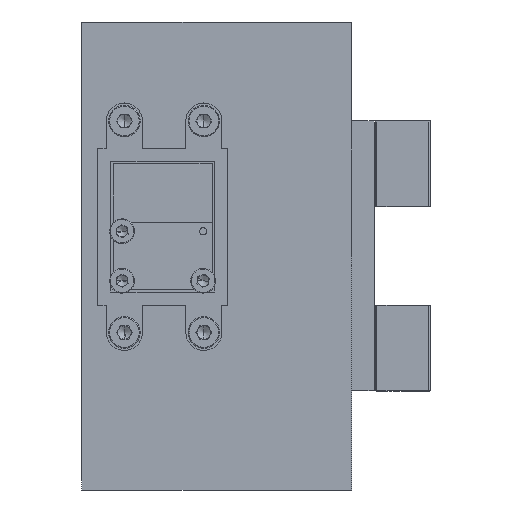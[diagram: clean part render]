
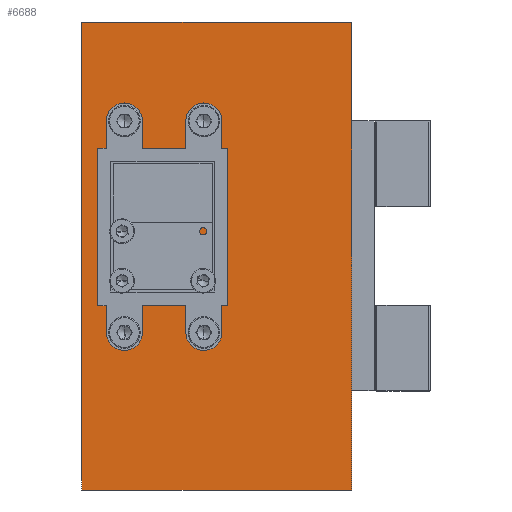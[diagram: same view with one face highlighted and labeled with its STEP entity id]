
A CAD part, left-side view. The second image highlights one B-rep face of the part: STEP entity #6688.
In plain terms, the highlighted planar face has unit normal (-1, 0, 0).
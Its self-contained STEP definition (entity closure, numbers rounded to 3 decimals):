
#190 = CARTESIAN_POINT ( 'NONE',  ( -46.258, 5.765, 33.955 ) ) ;
#287 = EDGE_CURVE ( 'NONE', #24510, #24609, #2697, .T. ) ;
#312 = LINE ( 'NONE', #35295, #22970 ) ;
#367 = CIRCLE ( 'NONE', #24216, 5.5 ) ;
#383 = CARTESIAN_POINT ( 'NONE',  ( -46.258, 14.923, 3.955 ) ) ;
#1344 = CARTESIAN_POINT ( 'NONE',  ( -46.258, 7.765, -13.045 ) ) ;
#1699 = DIRECTION ( 'NONE',  ( 0., -1., 0. ) ) ;
#2235 = CARTESIAN_POINT ( 'NONE',  ( -46.258, 5.765, -13.045 ) ) ;
#2360 = CARTESIAN_POINT ( 'NONE',  ( -46.258, 3.765, 33.955 ) ) ;
#2683 = DIRECTION ( 'NONE',  ( -1., 0., 0. ) ) ;
#2697 = CIRCLE ( 'NONE', #47421, 2. ) ;
#2920 = EDGE_CURVE ( 'NONE', #18150, #9953, #31702, .T. ) ;
#3363 = VERTEX_POINT ( 'NONE', #13300 ) ;
#3653 = CARTESIAN_POINT ( 'NONE',  ( -46.258, 23.423, 33.955 ) ) ;
#4310 = DIRECTION ( 'NONE',  ( 0., -1., 0. ) ) ;
#5610 = VECTOR ( 'NONE', #19807, 1000. ) ;
#6042 = ORIENTED_EDGE ( 'NONE', *, *, #36266, .T. ) ;
#6501 = VECTOR ( 'NONE', #38126, 1000. ) ;
#6688 = ADVANCED_FACE ( 'NONE', ( #38410, #28535, #47106, #9313, #46487, #30875 ), #43529, .F. ) ;
#7034 = VERTEX_POINT ( 'NONE', #7252 ) ;
#7222 = CARTESIAN_POINT ( 'NONE',  ( -46.258, 23.423, -13.045 ) ) ;
#7252 = CARTESIAN_POINT ( 'NONE',  ( -46.258, 21.423, 33.955 ) ) ;
#7395 = CARTESIAN_POINT ( 'NONE',  ( -46.258, 20.423, 3.955 ) ) ;
#7951 = DIRECTION ( 'NONE',  ( 0., 1., 0. ) ) ;
#8214 = CARTESIAN_POINT ( 'NONE',  ( -46.258, 5.765, 33.955 ) ) ;
#8541 = CARTESIAN_POINT ( 'NONE',  ( -46.258, 3.765, -13.045 ) ) ;
#8941 = VERTEX_POINT ( 'NONE', #39934 ) ;
#9313 = FACE_BOUND ( 'NONE', #44880, .T. ) ;
#9594 = DIRECTION ( 'NONE',  ( 0., 1., 0. ) ) ;
#9685 = AXIS2_PLACEMENT_3D ( 'NONE', #41187, #34054, #4310 ) ;
#9931 = EDGE_CURVE ( 'NONE', #25145, #8941, #19965, .T. ) ;
#9953 = VERTEX_POINT ( 'NONE', #7395 ) ;
#9974 = CARTESIAN_POINT ( 'NONE',  ( -46.258, 23.423, 33.955 ) ) ;
#10886 = ORIENTED_EDGE ( 'NONE', *, *, #2920, .F. ) ;
#11550 = DIRECTION ( 'NONE',  ( -1., 0., 0. ) ) ;
#11611 = DIRECTION ( 'NONE',  ( -1., 0., 0. ) ) ;
#11898 = DIRECTION ( 'NONE',  ( 0., 1., 0. ) ) ;
#12111 = AXIS2_PLACEMENT_3D ( 'NONE', #9974, #2683, #14047 ) ;
#13169 = VERTEX_POINT ( 'NONE', #18221 ) ;
#13300 = CARTESIAN_POINT ( 'NONE',  ( -46.258, 25.423, 33.955 ) ) ;
#14047 = DIRECTION ( 'NONE',  ( 0., -1., 0. ) ) ;
#14516 = EDGE_CURVE ( 'NONE', #44538, #26137, #26007, .T. ) ;
#15008 = DIRECTION ( 'NONE',  ( -1., 0., 0. ) ) ;
#15047 = DIRECTION ( 'NONE',  ( 0., 1., 0. ) ) ;
#15086 = ORIENTED_EDGE ( 'NONE', *, *, #287, .F. ) ;
#15104 = ORIENTED_EDGE ( 'NONE', *, *, #14516, .F. ) ;
#15666 = EDGE_LOOP ( 'NONE', ( #47657, #10886 ) ) ;
#16183 = CARTESIAN_POINT ( 'NONE',  ( -46.258, 32.923, 55.955 ) ) ;
#16364 = LINE ( 'NONE', #44270, #6501 ) ;
#16737 = VECTOR ( 'NONE', #25186, 1000. ) ;
#17086 = CIRCLE ( 'NONE', #9685, 2. ) ;
#17479 = EDGE_LOOP ( 'NONE', ( #34234, #37828 ) ) ;
#17632 = ORIENTED_EDGE ( 'NONE', *, *, #9931, .F. ) ;
#18150 = VERTEX_POINT ( 'NONE', #23530 ) ;
#18221 = CARTESIAN_POINT ( 'NONE',  ( -46.258, 32.923, -48.045 ) ) ;
#18356 = AXIS2_PLACEMENT_3D ( 'NONE', #2235, #35235, #20763 ) ;
#18815 = DIRECTION ( 'NONE',  ( -1., 0., 0. ) ) ;
#19159 = ORIENTED_EDGE ( 'NONE', *, *, #19341, .F. ) ;
#19341 = EDGE_CURVE ( 'NONE', #8941, #25145, #17086, .T. ) ;
#19343 = AXIS2_PLACEMENT_3D ( 'NONE', #39507, #31890, #9594 ) ;
#19807 = DIRECTION ( 'NONE',  ( 0., -1., 0. ) ) ;
#19949 = EDGE_LOOP ( 'NONE', ( #17632, #19159 ) ) ;
#19965 = CIRCLE ( 'NONE', #25692, 2. ) ;
#20763 = DIRECTION ( 'NONE',  ( 0., -1., 0. ) ) ;
#21314 = CARTESIAN_POINT ( 'NONE',  ( -46.258, 21.423, -13.045 ) ) ;
#22177 = DIRECTION ( 'NONE',  ( -1., 0., 0. ) ) ;
#22382 = CIRCLE ( 'NONE', #38121, 2. ) ;
#22784 = EDGE_CURVE ( 'NONE', #7034, #3363, #27006, .T. ) ;
#22970 = VECTOR ( 'NONE', #11898, 1000. ) ;
#23530 = CARTESIAN_POINT ( 'NONE',  ( -46.258, 9.423, 3.955 ) ) ;
#24216 = AXIS2_PLACEMENT_3D ( 'NONE', #30194, #18815, #7951 ) ;
#24510 = VERTEX_POINT ( 'NONE', #24799 ) ;
#24609 = VERTEX_POINT ( 'NONE', #2360 ) ;
#24799 = CARTESIAN_POINT ( 'NONE',  ( -46.258, 7.765, 33.955 ) ) ;
#24940 = VERTEX_POINT ( 'NONE', #1344 ) ;
#25145 = VERTEX_POINT ( 'NONE', #21314 ) ;
#25186 = DIRECTION ( 'NONE',  ( 0., 0., -1. ) ) ;
#25692 = AXIS2_PLACEMENT_3D ( 'NONE', #7222, #40171, #29276 ) ;
#26007 = LINE ( 'NONE', #41883, #5610 ) ;
#26137 = VERTEX_POINT ( 'NONE', #27758 ) ;
#26207 = DIRECTION ( 'NONE',  ( 0., -1., 0. ) ) ;
#27006 = CIRCLE ( 'NONE', #35424, 2. ) ;
#27758 = CARTESIAN_POINT ( 'NONE',  ( -46.258, -27.077, 55.955 ) ) ;
#28524 = EDGE_CURVE ( 'NONE', #26137, #42850, #40535, .T. ) ;
#28535 = FACE_BOUND ( 'NONE', #17479, .T. ) ;
#29276 = DIRECTION ( 'NONE',  ( 0., -1., 0. ) ) ;
#29622 = DIRECTION ( 'NONE',  ( 0., -1., 0. ) ) ;
#30194 = CARTESIAN_POINT ( 'NONE',  ( -46.258, 14.923, 3.955 ) ) ;
#30201 = CIRCLE ( 'NONE', #35210, 2. ) ;
#30853 = ORIENTED_EDGE ( 'NONE', *, *, #43218, .F. ) ;
#30866 = ORIENTED_EDGE ( 'NONE', *, *, #22784, .F. ) ;
#30875 = FACE_OUTER_BOUND ( 'NONE', #37982, .T. ) ;
#31664 = CIRCLE ( 'NONE', #12111, 2. ) ;
#31702 = CIRCLE ( 'NONE', #39767, 5.5 ) ;
#31890 = DIRECTION ( 'NONE',  ( 1., 0., 0. ) ) ;
#33401 = CARTESIAN_POINT ( 'NONE',  ( -46.258, -27.077, -48.045 ) ) ;
#33792 = CARTESIAN_POINT ( 'NONE',  ( -46.258, 5.765, -13.045 ) ) ;
#34054 = DIRECTION ( 'NONE',  ( -1., 0., 0. ) ) ;
#34165 = EDGE_CURVE ( 'NONE', #24609, #24510, #30201, .T. ) ;
#34234 = ORIENTED_EDGE ( 'NONE', *, *, #43644, .F. ) ;
#34299 = EDGE_LOOP ( 'NONE', ( #46886, #15086 ) ) ;
#34923 = DIRECTION ( 'NONE',  ( 0., -1., 0. ) ) ;
#35210 = AXIS2_PLACEMENT_3D ( 'NONE', #8214, #38882, #1699 ) ;
#35235 = DIRECTION ( 'NONE',  ( -1., 0., 0. ) ) ;
#35295 = CARTESIAN_POINT ( 'NONE',  ( -46.258, 32.923, -48.045 ) ) ;
#35424 = AXIS2_PLACEMENT_3D ( 'NONE', #3653, #22177, #29622 ) ;
#36266 = EDGE_CURVE ( 'NONE', #44538, #13169, #16364, .T. ) ;
#37320 = ORIENTED_EDGE ( 'NONE', *, *, #47858, .F. ) ;
#37828 = ORIENTED_EDGE ( 'NONE', *, *, #48214, .F. ) ;
#37982 = EDGE_LOOP ( 'NONE', ( #6042, #37320, #42907, #15104 ) ) ;
#38121 = AXIS2_PLACEMENT_3D ( 'NONE', #33792, #11550, #34923 ) ;
#38126 = DIRECTION ( 'NONE',  ( 0., 0., -1. ) ) ;
#38410 = FACE_BOUND ( 'NONE', #19949, .T. ) ;
#38882 = DIRECTION ( 'NONE',  ( -1., 0., 0. ) ) ;
#39507 = CARTESIAN_POINT ( 'NONE',  ( -46.258, 32.923, 53.955 ) ) ;
#39767 = AXIS2_PLACEMENT_3D ( 'NONE', #383, #11611, #15047 ) ;
#39934 = CARTESIAN_POINT ( 'NONE',  ( -46.258, 25.423, -13.045 ) ) ;
#40171 = DIRECTION ( 'NONE',  ( -1., 0., 0. ) ) ;
#40535 = LINE ( 'NONE', #47399, #16737 ) ;
#41187 = CARTESIAN_POINT ( 'NONE',  ( -46.258, 23.423, -13.045 ) ) ;
#41883 = CARTESIAN_POINT ( 'NONE',  ( -46.258, 32.923, 55.955 ) ) ;
#42343 = EDGE_CURVE ( 'NONE', #9953, #18150, #367, .T. ) ;
#42850 = VERTEX_POINT ( 'NONE', #33401 ) ;
#42907 = ORIENTED_EDGE ( 'NONE', *, *, #28524, .F. ) ;
#43218 = EDGE_CURVE ( 'NONE', #3363, #7034, #31664, .T. ) ;
#43529 = PLANE ( 'NONE',  #19343 ) ;
#43644 = EDGE_CURVE ( 'NONE', #44074, #24940, #43759, .T. ) ;
#43759 = CIRCLE ( 'NONE', #18356, 2. ) ;
#44074 = VERTEX_POINT ( 'NONE', #8541 ) ;
#44270 = CARTESIAN_POINT ( 'NONE',  ( -46.258, 32.923, 53.955 ) ) ;
#44538 = VERTEX_POINT ( 'NONE', #16183 ) ;
#44880 = EDGE_LOOP ( 'NONE', ( #30866, #30853 ) ) ;
#46487 = FACE_BOUND ( 'NONE', #15666, .T. ) ;
#46886 = ORIENTED_EDGE ( 'NONE', *, *, #34165, .F. ) ;
#47106 = FACE_BOUND ( 'NONE', #34299, .T. ) ;
#47399 = CARTESIAN_POINT ( 'NONE',  ( -46.258, -27.077, 53.955 ) ) ;
#47421 = AXIS2_PLACEMENT_3D ( 'NONE', #190, #15008, #26207 ) ;
#47657 = ORIENTED_EDGE ( 'NONE', *, *, #42343, .F. ) ;
#47858 = EDGE_CURVE ( 'NONE', #42850, #13169, #312, .T. ) ;
#48214 = EDGE_CURVE ( 'NONE', #24940, #44074, #22382, .T. ) ;
